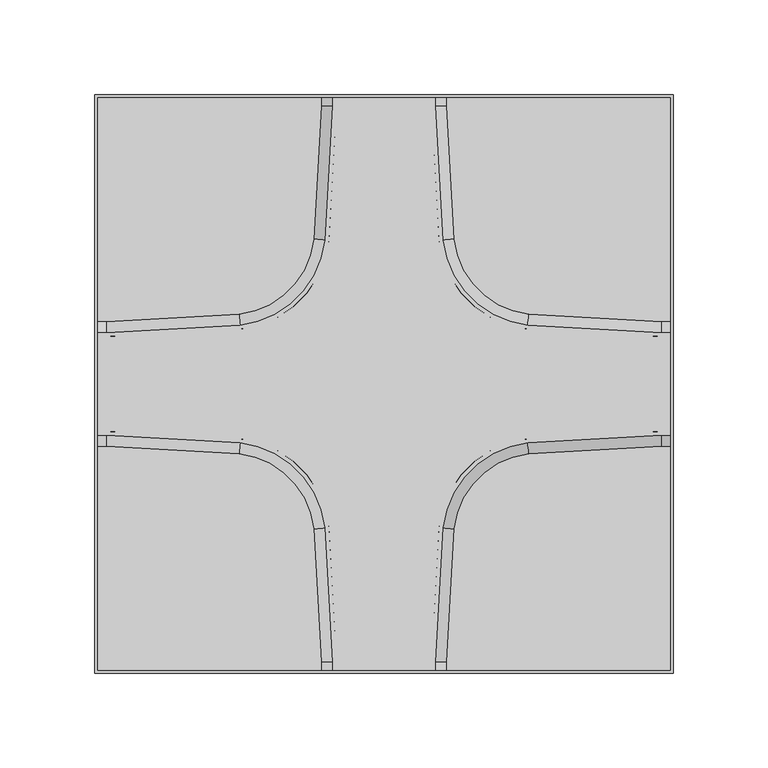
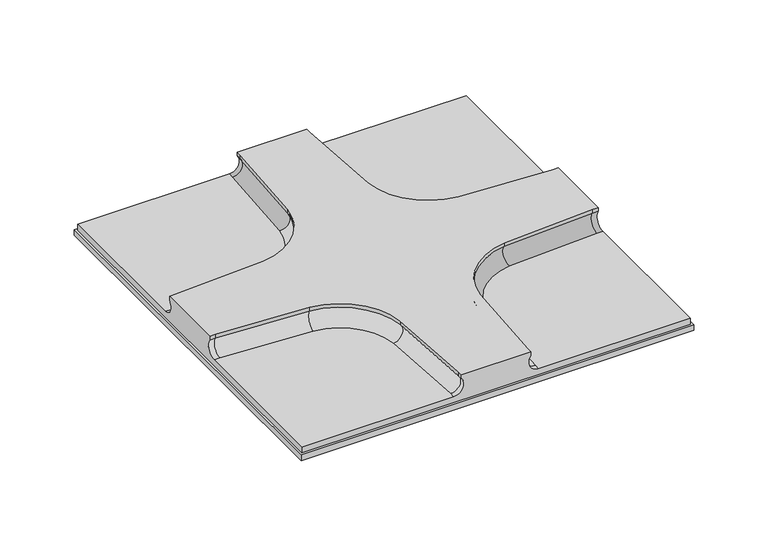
"""IFC4 building model written with IfcOpenShell, lengths in millimetres: proxy geometry, Spinneybeck_Quartile : Quartile 2."""

from ifc_helpers import new_model, si_unit, point, frame, origin, origin_with_axes, place, context, project, spatial, polyline, circle_curve, ellipse_curve, trimmed, outline, extrude, source, transform, mapped, element, save
from ifc_brep_helpers import plane_surface, revolved_surface, advanced_brep


def specialty_equipment_d5421138(model_context):
    return source(origin(), model_context, "Body", "SolidModel", [
        advanced_brep(
        [(-150.8125, -32.7814171, 9.525), (-150.8125, -26.9875, 22.225), (-150.8125, -26.9875, 25.4), (-150.8125, 26.9875, 25.4), (-150.8125, 26.9875, 22.225), (-150.8125, 32.7814171, 9.525), (-150.8125, 150.8125, 9.525), (-150.8125, 150.8125, 4.7625), (-150.8125, -150.8125, 4.7625), (-150.8125, -150.8125, 9.525), (-146.4103312, -26.9875, 25.4), (-75.7556556, -30.9425735, 25.4), (-30.9425735, -75.7556556, 25.4), (-26.9875, -146.4103312, 25.4), (-26.9875, -150.8125, 25.4), (26.9875, -150.8125, 25.4), (26.9875, -146.4103312, 25.4), (30.9425735, -75.7556556, 25.4), (75.7556556, -30.9425735, 25.4), (146.4103312, -26.9875, 25.4), (150.8125, -26.9875, 25.4), (150.8125, 26.9875, 25.4), (146.4103312, 26.9875, 25.4), (75.7556556, 30.9425735, 25.4), (30.9425735, 75.7556556, 25.4), (26.9875, 146.4103312, 25.4), (26.9875, 150.8125, 25.4), (-26.9875, 150.8125, 25.4), (-26.9875, 146.4103312, 25.4), (-30.9425735, 75.7556556, 25.4), (-75.7556556, 30.9425735, 25.4), (-146.4103312, 26.9875, 25.4), (-146.4103312, -32.7814171, 9.525), (-146.4103312, -26.9875, 22.225), (-76.4022876, -36.7002937, 9.525), (-75.7556556, -30.9425735, 22.225), (-36.7002937, -76.4022876, 9.525), (-30.9425735, -75.7556556, 22.225), (-32.7814171, -146.4103312, 9.525), (-26.9875, -146.4103312, 22.225), (-26.9875, -150.8125, 22.225), (-32.7814171, -150.8125, 9.525), (150.8125, -150.8125, 4.7625), (150.8125, -150.8125, 9.525), (32.7814171, -150.8125, 9.525), (26.9875, -150.8125, 22.225), (-146.4103312, 26.9875, 22.225), (-146.4103312, 32.7814171, 9.525), (-75.7556556, 30.9425735, 22.225), (-76.4022876, 36.7002937, 9.525), (-30.9425735, 75.7556556, 22.225), (-36.7002937, 76.4022876, 9.525), (-26.9875, 146.4103312, 22.225), (-32.7814171, 146.4103312, 9.525), (-32.7814171, 150.8125, 9.525), (-26.9875, 150.8125, 22.225), (26.9875, 150.8125, 22.225), (32.7814171, 150.8125, 9.525), (150.8125, 150.8125, 9.525), (150.8125, 150.8125, 4.7625), (150.8125, 32.7814171, 9.525), (150.8125, 26.9875, 22.225), (150.8125, -26.9875, 22.225), (150.8125, -32.7814171, 9.525), (146.4103312, 32.7814171, 9.525), (146.4103312, 26.9875, 22.225), (76.4022876, 36.7002937, 9.525), (75.7556556, 30.9425735, 22.225), (36.7002937, 76.4022876, 9.525), (30.9425735, 75.7556556, 22.225), (32.7814171, 146.4103312, 9.525), (26.9875, 146.4103312, 22.225), (146.4103312, -26.9875, 22.225), (146.4103312, -32.7814171, 9.525), (75.7556556, -30.9425735, 22.225), (76.4022876, -36.7002937, 9.525), (30.9425735, -75.7556556, 22.225), (36.7002937, -76.4022876, 9.525), (26.9875, -146.4103312, 22.225), (32.7814171, -146.4103312, 9.525)],
        [
            (0, 1, circle_curve(frame((-150.8125, -32.7814171, 17.1966329), z_axis=(1.0, 0.0, 0.0), x_axis=(0.0, 1.0, 0.0)), 7.6716329)),
            (1, 2),
            (2, 3),
            (3, 4),
            (4, 5, circle_curve(frame((-150.8125, 32.7814171, 17.1966329), z_axis=(1.0, 0.0, 0.0), x_axis=(0.0, 1.0, 0.0)), 7.6716329)),
            (5, 6),
            (6, 7),
            (7, 8),
            (8, 9),
            (9, 0),
            (2, 10),
            (10, 11, circle_curve(frame((-146.4103312, -660.0637042, 25.4), z_axis=(0.0, 0.0, -1.0), x_axis=(0.0, 1.0, 0.0)), 633.0762042)),
            (11, 12, circle_curve(frame((-81.4252061, -81.4252061, 25.4), z_axis=(0.0, 0.0, -1.0), x_axis=(0.11160532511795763, 0.9937526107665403, 0.0)), 50.8)),
            (12, 13, circle_curve(frame((-660.0637042, -146.4103312, 25.4), z_axis=(0.0, 0.0, -1.0), x_axis=(0.9937526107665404, 0.11160532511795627, 0.0)), 633.0762042)),
            (13, 14),
            (14, 15),
            (15, 16),
            (16, 17, circle_curve(frame((660.0637042, -146.4103312, 25.4), z_axis=(0.0, 0.0, -1.0), x_axis=(-0.9937526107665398, 0.11160532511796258, 0.0)), 633.0762042)),
            (17, 18, circle_curve(frame((81.4252061, -81.4252061, 25.4), z_axis=(0.0, 0.0, -1.0), x_axis=(-0.1116053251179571, 0.9937526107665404, 0.0)), 50.8)),
            (18, 19, circle_curve(frame((146.4103312, -660.0637042, 25.4), z_axis=(0.0, 0.0, -1.0), x_axis=(0.0, 1.0, 0.0)), 633.0762042)),
            (19, 20),
            (20, 21),
            (21, 22),
            (22, 23, circle_curve(frame((146.4103312, 660.0637042, 25.4), z_axis=(0.0, 0.0, -1.0), x_axis=(0.0, -1.0, 0.0)), 633.0762042)),
            (23, 24, circle_curve(frame((81.4252061, 81.4252061, 25.4), z_axis=(0.0, 0.0, -1.0), x_axis=(-0.11160532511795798, -0.9937526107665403, 0.0)), 50.8)),
            (24, 25, circle_curve(frame((660.0637042, 146.4103312, 25.4), z_axis=(0.0, 0.0, -1.0), x_axis=(-0.9937526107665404, -0.1116053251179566, 0.0)), 633.0762042)),
            (25, 26),
            (26, 27),
            (27, 28),
            (28, 29, circle_curve(frame((-660.0637042, 146.4103312, 25.4), z_axis=(0.0, 0.0, -1.0), x_axis=(0.9937526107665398, -0.1116053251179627, 0.0)), 633.0762042)),
            (29, 30, circle_curve(frame((-81.4252061, 81.4252061, 25.4), z_axis=(0.0, 0.0, -1.0), x_axis=(0.11160532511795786, -0.9937526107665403, 0.0)), 50.8)),
            (30, 31, circle_curve(frame((-146.4103312, 660.0637042, 25.4), z_axis=(0.0, 0.0, -1.0), x_axis=(0.0, -1.0, 0.0)), 633.0762042)),
            (31, 3),
            (0, 32),
            (32, 33, circle_curve(frame((-146.4103312, -32.7814171, 17.1966329), z_axis=(1.0, 0.0, 0.0), x_axis=(0.0, 1.0, 0.0)), 7.6716329)),
            (33, 1),
            (33, 10),
            (32, 34, circle_curve(frame((-146.4103312, -660.0637042, 9.525), z_axis=(0.0, 0.0, -1.0), x_axis=(0.0, 1.0, 0.0)), 627.2822871)),
            (34, 35, circle_curve(frame((-76.4022876, -36.7002937, 17.1966329), z_axis=(0.9937526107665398, -0.11160532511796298, 0.0), x_axis=(0.11160532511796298, 0.9937526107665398, 0.0)), 7.6716329)),
            (35, 33, circle_curve(frame((-146.4103312, -660.0637042, 22.225), z_axis=(0.0, 0.0, 1.0), x_axis=(0.0, 1.0, 0.0)), 633.0762042)),
            (35, 11),
            (34, 36, circle_curve(frame((-81.4252061, -81.4252061, 9.525), z_axis=(0.0, 0.0, -1.0), x_axis=(0.11160532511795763, 0.9937526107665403, 0.0)), 45.0060829)),
            (36, 37, circle_curve(frame((-36.7002937, -76.4022876, 17.1966329), z_axis=(0.11160532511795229, -0.9937526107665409, 0.0), x_axis=(0.9937526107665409, 0.11160532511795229, 0.0)), 7.6716329)),
            (37, 35, circle_curve(frame((-81.4252061, -81.4252061, 22.225), z_axis=(0.0, 0.0, 1.0), x_axis=(0.11160532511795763, 0.9937526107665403, 0.0)), 50.8)),
            (37, 12),
            (36, 38, circle_curve(frame((-660.0637042, -146.4103312, 9.525), z_axis=(0.0, 0.0, -1.0), x_axis=(0.9937526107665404, 0.11160532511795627, 0.0)), 627.2822871)),
            (38, 39, circle_curve(frame((-32.7814171, -146.4103312, 17.1966329), z_axis=(0.0, -0.9999999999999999, 0.0), x_axis=(0.9999999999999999, 0.0, 0.0)), 7.6716329)),
            (39, 37, circle_curve(frame((-660.0637042, -146.4103312, 22.225), z_axis=(0.0, 0.0, 1.0), x_axis=(0.9937526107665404, 0.11160532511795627, 0.0)), 633.0762042)),
            (39, 13),
            (14, 40),
            (40, 41, circle_curve(frame((-32.7814171, -150.8125, 17.1966329), z_axis=(0.0, 1.0, 0.0), x_axis=(1.0, 0.0, 0.0)), 7.6716329)),
            (41, 9),
            (8, 42),
            (42, 43),
            (43, 44),
            (44, 45, circle_curve(frame((32.7814171, -150.8125, 17.1966329), z_axis=(0.0, 1.0, 0.0), x_axis=(1.0, 0.0, 0.0)), 7.6716329)),
            (45, 15),
            (38, 41),
            (40, 39),
            (4, 46),
            (46, 47, circle_curve(frame((-146.4103312, 32.7814171, 17.1966329), z_axis=(1.0, 0.0, 0.0), x_axis=(0.0, 1.0, 0.0)), 7.6716329)),
            (47, 5),
            (31, 46),
            (46, 48, circle_curve(frame((-146.4103312, 660.0637042, 22.225), z_axis=(0.0, 0.0, 1.0), x_axis=(0.0, -1.0, 0.0)), 633.0762042)),
            (48, 49, circle_curve(frame((-76.4022876, 36.7002937, 17.1966329), z_axis=(0.9937526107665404, 0.11160532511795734, 0.0), x_axis=(-0.11160532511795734, 0.9937526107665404, 0.0)), 7.6716329)),
            (49, 47, circle_curve(frame((-146.4103312, 660.0637042, 9.525), z_axis=(0.0, 0.0, -1.0), x_axis=(0.0, -1.0, 0.0)), 627.2822871)),
            (30, 48),
            (48, 50, circle_curve(frame((-81.4252061, 81.4252061, 22.225), z_axis=(0.0, 0.0, 1.0), x_axis=(0.11160532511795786, -0.9937526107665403, 0.0)), 50.8)),
            (50, 51, circle_curve(frame((-36.7002937, 76.4022876, 17.1966329), z_axis=(0.11160532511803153, 0.9937526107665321, 0.0), x_axis=(-0.9937526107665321, 0.11160532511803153, 0.0)), 7.6716329)),
            (51, 49, circle_curve(frame((-81.4252061, 81.4252061, 9.525), z_axis=(0.0, 0.0, -1.0), x_axis=(0.11160532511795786, -0.9937526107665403, 0.0)), 45.0060829)),
            (29, 50),
            (50, 52, circle_curve(frame((-660.0637042, 146.4103312, 22.225), z_axis=(0.0, 0.0, 1.0), x_axis=(0.9937526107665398, -0.1116053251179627, 0.0)), 633.0762042)),
            (52, 53, circle_curve(frame((-32.7814171, 146.4103312, 17.1966329), z_axis=(0.0, 1.0, 0.0), x_axis=(-1.0, 0.0, 0.0)), 7.6716329)),
            (53, 51, circle_curve(frame((-660.0637042, 146.4103312, 9.525), z_axis=(0.0, 0.0, -1.0), x_axis=(0.9937526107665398, -0.1116053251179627, 0.0)), 627.2822871)),
            (28, 52),
            (54, 55, circle_curve(frame((-32.7814171, 150.8125, 17.1966329), z_axis=(0.0, -1.0, 0.0), x_axis=(-1.0, 0.0, 0.0)), 7.6716329)),
            (55, 27),
            (26, 56),
            (56, 57, circle_curve(frame((32.7814171, 150.8125, 17.1966329), z_axis=(0.0, -1.0, 0.0), x_axis=(-1.0, 0.0, 0.0)), 7.6716329)),
            (57, 58),
            (58, 59),
            (59, 7),
            (6, 54),
            (52, 55),
            (54, 53),
            (60, 61, circle_curve(frame((150.8125, 32.7814171, 17.1966329), z_axis=(-1.0, 0.0, 0.0), x_axis=(0.0, -1.0, 0.0)), 7.6716329)),
            (61, 21),
            (20, 62),
            (62, 63, circle_curve(frame((150.8125, -32.7814171, 17.1966329), z_axis=(-1.0, 0.0, 0.0), x_axis=(0.0, -1.0, 0.0)), 7.6716329)),
            (63, 43),
            (42, 59),
            (58, 60),
            (60, 64),
            (64, 65, circle_curve(frame((146.4103312, 32.7814171, 17.1966329), z_axis=(-1.0, 0.0, 0.0), x_axis=(0.0, -1.0, 0.0)), 7.6716329)),
            (65, 61),
            (65, 22),
            (64, 66, circle_curve(frame((146.4103312, 660.0637042, 9.525), z_axis=(0.0, 0.0, -1.0), x_axis=(0.0, -1.0, 0.0)), 627.2822871)),
            (66, 67, circle_curve(frame((76.4022876, 36.7002937, 17.1966329), z_axis=(-0.9937526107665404, 0.1116053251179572, 0.0), x_axis=(-0.1116053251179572, -0.9937526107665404, 0.0)), 7.6716329)),
            (67, 65, circle_curve(frame((146.4103312, 660.0637042, 22.225), z_axis=(0.0, 0.0, 1.0), x_axis=(0.0, -1.0, 0.0)), 633.0762042)),
            (67, 23),
            (66, 68, circle_curve(frame((81.4252061, 81.4252061, 9.525), z_axis=(0.0, 0.0, -1.0), x_axis=(-0.11160532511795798, -0.9937526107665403, 0.0)), 45.0060829)),
            (68, 69, circle_curve(frame((36.7002937, 76.4022876, 17.1966329), z_axis=(-0.1116053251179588, 0.9937526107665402, 0.0), x_axis=(-0.9937526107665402, -0.1116053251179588, 0.0)), 7.6716329)),
            (69, 67, circle_curve(frame((81.4252061, 81.4252061, 22.225), z_axis=(0.0, 0.0, 1.0), x_axis=(-0.11160532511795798, -0.9937526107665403, 0.0)), 50.8)),
            (69, 24),
            (68, 70, circle_curve(frame((660.0637042, 146.4103312, 9.525), z_axis=(0.0, 0.0, -1.0), x_axis=(-0.9937526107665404, -0.1116053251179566, 0.0)), 627.2822871)),
            (70, 71, circle_curve(frame((32.7814171, 146.4103312, 17.1966329), z_axis=(0.0, 1.0, 0.0), x_axis=(-1.0, 0.0, 0.0)), 7.6716329)),
            (71, 69, circle_curve(frame((660.0637042, 146.4103312, 22.225), z_axis=(0.0, 0.0, 1.0), x_axis=(-0.9937526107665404, -0.1116053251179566, 0.0)), 633.0762042)),
            (71, 25),
            (70, 57),
            (56, 71),
            (62, 72),
            (72, 73, circle_curve(frame((146.4103312, -32.7814171, 17.1966329), z_axis=(-1.0, 0.0, 0.0), x_axis=(0.0, -1.0, 0.0)), 7.6716329)),
            (73, 63),
            (19, 72),
            (72, 74, circle_curve(frame((146.4103312, -660.0637042, 22.225), z_axis=(0.0, 0.0, 1.0), x_axis=(0.0, 1.0, 0.0)), 633.0762042)),
            (74, 75, circle_curve(frame((76.4022876, -36.7002937, 17.1966329), z_axis=(-0.9937526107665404, -0.11160532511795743, 0.0), x_axis=(0.11160532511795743, -0.9937526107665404, 0.0)), 7.6716329)),
            (75, 73, circle_curve(frame((146.4103312, -660.0637042, 9.525), z_axis=(0.0, 0.0, -1.0), x_axis=(0.0, 1.0, 0.0)), 627.2822871)),
            (18, 74),
            (74, 76, circle_curve(frame((81.4252061, -81.4252061, 22.225), z_axis=(0.0, 0.0, 1.0), x_axis=(-0.1116053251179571, 0.9937526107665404, 0.0)), 50.8)),
            (76, 77, circle_curve(frame((36.7002937, -76.4022876, 17.1966329), z_axis=(-0.11160532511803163, -0.993752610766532, 0.0), x_axis=(0.993752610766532, -0.11160532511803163, 0.0)), 7.6716329)),
            (77, 75, circle_curve(frame((81.4252061, -81.4252061, 9.525), z_axis=(0.0, 0.0, -1.0), x_axis=(-0.1116053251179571, 0.9937526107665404, 0.0)), 45.0060829)),
            (17, 76),
            (76, 78, circle_curve(frame((660.0637042, -146.4103312, 22.225), z_axis=(0.0, 0.0, 1.0), x_axis=(-0.9937526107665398, 0.11160532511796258, 0.0)), 633.0762042)),
            (78, 79, circle_curve(frame((32.7814171, -146.4103312, 17.1966329), z_axis=(0.0, -1.0, 0.0), x_axis=(1.0, 0.0, 0.0)), 7.6716329)),
            (79, 77, circle_curve(frame((660.0637042, -146.4103312, 9.525), z_axis=(0.0, 0.0, -1.0), x_axis=(-0.9937526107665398, 0.11160532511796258, 0.0)), 627.2822871)),
            (16, 78),
            (78, 45),
            (44, 79),
        ],
        [
            plane_surface(frame((-150.8125, -26.9875, 9.525), z_axis=(-1.0, 0.0, 0.0), x_axis=(0.0, 0.0, 1.0))),
            plane_surface(frame((-150.8125, -26.9875, 25.4), z_axis=(0.0, 0.0, 1.0), x_axis=(1.0, 0.0, 0.0))),
            revolved_surface(polyline([(-146.4103312, -25.1097842, 17.1966329), (-150.8125, -25.1097842, 17.1966329)]), (-150.8125, -32.7814171, 17.1966329), (1.0, 0.0, 0.0)),
            plane_surface(frame((-150.8125, -26.9875, 22.225), z_axis=(0.0, -1.0, 0.0), x_axis=(1.0, 0.0, 0.0))),
            revolved_surface(trimmed(ellipse_curve(frame((-146.4103312, -32.7814171, 17.1966329), z_axis=(1.0, 0.0, 0.0), x_axis=(0.0, 1.0, 0.0)), 7.6716329, 7.6716329), [point((-146.4103312, -32.7814171, 9.525))], [point((-146.4103312, -26.9875, 22.225))], True, "CARTESIAN"), (-146.4103312, -660.0637042, 9.525), (0.0, 0.0, -1.0)),
            revolved_surface(polyline([(-146.4103312, -26.987499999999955, 22.225), (-146.4103312, -26.987499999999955, 25.4)]), (-146.4103312, -660.0637042, 9.525), (0.0, 0.0, -1.0)),
            revolved_surface(trimmed(ellipse_curve(frame((-76.4022876, -36.7002937, 17.1966329), z_axis=(0.9937526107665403, -0.11160532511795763, 0.0), x_axis=(0.11160532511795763, 0.9937526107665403, 0.0)), 7.6716329, 7.6716329), [point((-76.4022876, -36.7002937, 9.525))], [point((-75.7556556, -30.9425735, 22.225))], True, "CARTESIAN"), (-81.4252061, -81.4252061, 9.525), (0.0, 0.0, -1.0)),
            revolved_surface(polyline([(-75.75565558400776, -30.942573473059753, 22.225), (-75.75565558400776, -30.942573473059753, 25.4)]), (-81.4252061, -81.4252061, 9.525), (0.0, 0.0, -1.0)),
            revolved_surface(trimmed(ellipse_curve(frame((-36.7002937, -76.4022876, 17.1966329), z_axis=(0.1116053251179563, -0.9937526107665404, 0.0), x_axis=(0.9937526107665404, 0.1116053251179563, 0.0)), 7.6716329, 7.6716329), [point((-36.7002937, -76.4022876, 9.525))], [point((-30.9425735, -75.7556556, 22.225))], True, "CARTESIAN"), (-660.0637042, -146.4103312, 9.525), (0.0, 0.0, -1.0)),
            revolved_surface(polyline([(-30.942573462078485, -75.75565560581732, 22.225), (-30.942573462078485, -75.75565560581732, 25.4)]), (-660.0637042, -146.4103312, 9.525), (0.0, 0.0, -1.0)),
            plane_surface(frame((-26.9875, -150.8125, 9.525), z_axis=(0.0, -1.0, 0.0), x_axis=(0.0, 0.0, 1.0))),
            revolved_surface(polyline([(-25.1097842, -150.8125, 17.1966329), (-25.1097842, -146.4103312, 17.1966329)]), (-32.7814171, -146.4103312, 17.1966329), (0.0, -1.0, 0.0)),
            plane_surface(frame((-26.9875, -146.4103312, 22.225), z_axis=(-1.0, 0.0, 0.0), x_axis=(0.0, -1.0, 0.0))),
            revolved_surface(polyline([(-146.4103312, 40.45305, 17.1966329), (-150.8125, 40.45305, 17.1966329)]), (-150.8125, 32.7814171, 17.1966329), (1.0, 0.0, 0.0)),
            plane_surface(frame((-150.8125, 26.9875, 25.4), z_axis=(0.0, 1.0, 0.0), x_axis=(1.0, 0.0, 0.0))),
            revolved_surface(trimmed(ellipse_curve(frame((-146.4103312, 32.7814171, 17.1966329), z_axis=(1.0, 0.0, 0.0), x_axis=(0.0, 1.0, 0.0)), 7.6716329, 7.6716329), [point((-146.4103312, 26.9875, 22.225))], [point((-146.4103312, 32.7814171, 9.525))], True, "CARTESIAN"), (-146.4103312, 660.0637042, 9.525), (0.0, 0.0, 1.0)),
            revolved_surface(polyline([(-146.4103312, 26.987499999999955, 25.4), (-146.4103312, 26.987499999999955, 22.225)]), (-146.4103312, 660.0637042, 9.525), (0.0, 0.0, 1.0)),
            revolved_surface(trimmed(ellipse_curve(frame((-76.4022876, 36.7002937, 17.1966329), z_axis=(0.9937526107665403, 0.11160532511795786, 0.0), x_axis=(-0.11160532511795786, 0.9937526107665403, 0.0)), 7.6716329, 7.6716329), [point((-75.7556556, 30.9425735, 22.225))], [point((-76.4022876, 36.7002937, 9.525))], True, "CARTESIAN"), (-81.4252061, 81.4252061, 9.525), (0.0, 0.0, 1.0)),
            revolved_surface(polyline([(-75.75565558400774, 30.942573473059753, 25.4), (-75.75565558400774, 30.942573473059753, 22.225)]), (-81.4252061, 81.4252061, 9.525), (0.0, 0.0, 1.0)),
            revolved_surface(trimmed(ellipse_curve(frame((-36.7002937, 76.4022876, 17.1966329), z_axis=(0.11160532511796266, 0.9937526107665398, 0.0), x_axis=(-0.9937526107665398, 0.11160532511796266, 0.0)), 7.6716329, 7.6716329), [point((-30.9425735, 75.7556556, 22.225))], [point((-36.7002937, 76.4022876, 9.525))], True, "CARTESIAN"), (-660.0637042, 146.4103312, 9.525), (0.0, 0.0, 1.0)),
            revolved_surface(polyline([(-30.94257346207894, 75.75565560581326, 25.4), (-30.94257346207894, 75.75565560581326, 22.225)]), (-660.0637042, 146.4103312, 9.525), (0.0, 0.0, 1.0)),
            plane_surface(frame((-26.9875, 150.8125, 9.525), z_axis=(0.0, 1.0, 0.0), x_axis=(0.0, 0.0, 1.0))),
            revolved_surface(polyline([(-40.45305, 150.8125, 17.1966329), (-40.45305, 146.4103312, 17.1966329)]), (-32.7814171, 146.4103312, 17.1966329), (0.0, 1.0, 0.0)),
            plane_surface(frame((-26.9875, 146.4103312, 25.4), z_axis=(-1.0, 0.0, 0.0), x_axis=(0.0, 1.0, 0.0))),
            plane_surface(frame((150.8125, 26.9875, 9.525), z_axis=(1.0, 0.0, 0.0), x_axis=(0.0, 0.0, 1.0))),
            revolved_surface(polyline([(146.4103312, 25.1097842, 17.1966329), (150.8125, 25.1097842, 17.1966329)]), (150.8125, 32.7814171, 17.1966329), (-1.0, 0.0, 0.0)),
            plane_surface(frame((150.8125, 26.9875, 22.225), z_axis=(0.0, 1.0, 0.0), x_axis=(-1.0, 0.0, 0.0))),
            revolved_surface(trimmed(ellipse_curve(frame((146.4103312, 32.7814171, 17.1966329), z_axis=(-1.0, 0.0, 0.0), x_axis=(0.0, -1.0, 0.0)), 7.6716329, 7.6716329), [point((146.4103312, 32.7814171, 9.525))], [point((146.4103312, 26.9875, 22.225))], True, "CARTESIAN"), (146.4103312, 660.0637042, 9.525), (0.0, 0.0, -1.0)),
            revolved_surface(polyline([(146.4103312, 26.987499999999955, 22.225), (146.4103312, 26.987499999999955, 25.4)]), (146.4103312, 660.0637042, 9.525), (0.0, 0.0, -1.0)),
            revolved_surface(trimmed(ellipse_curve(frame((76.4022876, 36.7002937, 17.1966329), z_axis=(-0.9937526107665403, 0.11160532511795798, 0.0), x_axis=(-0.11160532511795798, -0.9937526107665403, 0.0)), 7.6716329, 7.6716329), [point((76.4022876, 36.7002937, 9.525))], [point((75.7556556, 30.9425735, 22.225))], True, "CARTESIAN"), (81.4252061, 81.4252061, 9.525), (0.0, 0.0, -1.0)),
            revolved_surface(polyline([(75.75565558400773, 30.942573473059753, 22.225), (75.75565558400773, 30.942573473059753, 25.4)]), (81.4252061, 81.4252061, 9.525), (0.0, 0.0, -1.0)),
            revolved_surface(trimmed(ellipse_curve(frame((36.7002937, 76.4022876, 17.1966329), z_axis=(-0.11160532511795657, 0.9937526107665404, 0.0), x_axis=(-0.9937526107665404, -0.11160532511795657, 0.0)), 7.6716329, 7.6716329), [point((36.7002937, 76.4022876, 9.525))], [point((30.9425735, 75.7556556, 22.225))], True, "CARTESIAN"), (660.0637042, 146.4103312, 9.525), (0.0, 0.0, -1.0)),
            revolved_surface(polyline([(30.942573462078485, 75.75565560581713, 22.225), (30.942573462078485, 75.75565560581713, 25.4)]), (660.0637042, 146.4103312, 9.525), (0.0, 0.0, -1.0)),
            revolved_surface(polyline([(25.1097842, 150.8125, 17.1966329), (25.1097842, 146.4103312, 17.1966329)]), (32.7814171, 146.4103312, 17.1966329), (0.0, 1.0, 0.0)),
            plane_surface(frame((26.9875, 146.4103312, 22.225), z_axis=(1.0, 0.0, 0.0), x_axis=(0.0, 1.0, 0.0))),
            revolved_surface(polyline([(146.4103312, -40.45305, 17.1966329), (150.8125, -40.45305, 17.1966329)]), (150.8125, -32.7814171, 17.1966329), (-1.0, 0.0, 0.0)),
            plane_surface(frame((150.8125, -26.9875, 25.4), z_axis=(0.0, -1.0, 0.0), x_axis=(-1.0, 0.0, 0.0))),
            revolved_surface(trimmed(ellipse_curve(frame((146.4103312, -32.7814171, 17.1966329), z_axis=(-1.0, 0.0, 0.0), x_axis=(0.0, -1.0, 0.0)), 7.6716329, 7.6716329), [point((146.4103312, -26.9875, 22.225))], [point((146.4103312, -32.7814171, 9.525))], True, "CARTESIAN"), (146.4103312, -660.0637042, 9.525), (0.0, 0.0, 1.0)),
            revolved_surface(polyline([(146.4103312, -26.987499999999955, 25.4), (146.4103312, -26.987499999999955, 22.225)]), (146.4103312, -660.0637042, 9.525), (0.0, 0.0, 1.0)),
            revolved_surface(trimmed(ellipse_curve(frame((76.4022876, -36.7002937, 17.1966329), z_axis=(-0.9937526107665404, -0.1116053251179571, 0.0), x_axis=(0.1116053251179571, -0.9937526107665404, 0.0)), 7.6716329, 7.6716329), [point((75.7556556, -30.9425735, 22.225))], [point((76.4022876, -36.7002937, 9.525))], True, "CARTESIAN"), (81.4252061, -81.4252061, 9.525), (0.0, 0.0, 1.0)),
            revolved_surface(polyline([(75.75565558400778, -30.942573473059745, 25.4), (75.75565558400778, -30.942573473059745, 22.225)]), (81.4252061, -81.4252061, 9.525), (0.0, 0.0, 1.0)),
            revolved_surface(trimmed(ellipse_curve(frame((36.7002937, -76.4022876, 17.1966329), z_axis=(-0.1116053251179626, -0.9937526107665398, 0.0), x_axis=(0.9937526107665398, -0.1116053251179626, 0.0)), 7.6716329, 7.6716329), [point((30.9425735, -75.7556556, 22.225))], [point((36.7002937, -76.4022876, 9.525))], True, "CARTESIAN"), (660.0637042, -146.4103312, 9.525), (0.0, 0.0, 1.0)),
            revolved_surface(polyline([(30.94257346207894, -75.75565560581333, 25.4), (30.94257346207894, -75.75565560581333, 22.225)]), (660.0637042, -146.4103312, 9.525), (0.0, 0.0, 1.0)),
            revolved_surface(polyline([(40.45305, -150.8125, 17.1966329), (40.45305, -146.4103312, 17.1966329)]), (32.7814171, -146.4103312, 17.1966329), (0.0, -1.0, 0.0)),
            plane_surface(frame((26.9875, -146.4103312, 25.4), z_axis=(1.0, 0.0, 0.0), x_axis=(0.0, -1.0, 0.0))),
            plane_surface(frame((150.8125, 150.8125, 4.7625), z_axis=(0.0, 0.0, -1.0), x_axis=(0.0, -1.0, 0.0))),
            plane_surface(frame((150.8125, 150.8125, 9.525), z_axis=(0.0, 0.0, 1.0), x_axis=(0.0, 1.0, 0.0))),
        ],
        [
            (0, [[1, 2, 3, 4, 5, 6, 7, 8, 9, 10]]),
            (1, [[11, 12, 13, 14, 15, 16, 17, 18, 19, 20, 21, 22, 23, 24, 25, 26, 27, 28, 29, 30, 31, 32, 33, -3]]),
            (2, [[-1, 34, 35, 36]]),
            (3, [[-2, -36, 37, -11]]),
            (4, [[-35, 38, 39, 40]]),
            (5, [[-12, -37, -40, 41]]),
            (6, [[-39, 42, 43, 44]]),
            (7, [[-13, -41, -44, 45]]),
            (8, [[-43, 46, 47, 48]]),
            (9, [[-14, -45, -48, 49]]),
            (10, [[50, 51, 52, -9, 53, 54, 55, 56, 57, -16]]),
            (11, [[-47, 58, -51, 59]]),
            (12, [[-15, -49, -59, -50]]),
            (13, [[-5, 60, 61, 62]]),
            (14, [[-4, -33, 63, -60]]),
            (15, [[-61, 64, 65, 66]]),
            (16, [[-32, 67, -64, -63]]),
            (17, [[-65, 68, 69, 70]]),
            (18, [[-31, 71, -68, -67]]),
            (19, [[-69, 72, 73, 74]]),
            (20, [[-30, 75, -72, -71]]),
            (21, [[76, 77, -28, 78, 79, 80, 81, 82, -7, 83]]),
            (22, [[-73, 84, -76, 85]]),
            (23, [[-29, -77, -84, -75]]),
            (24, [[86, 87, -22, 88, 89, 90, -54, 91, -81, 92]]),
            (25, [[-86, 93, 94, 95]]),
            (26, [[-87, -95, 96, -23]]),
            (27, [[-94, 97, 98, 99]]),
            (28, [[-24, -96, -99, 100]]),
            (29, [[-98, 101, 102, 103]]),
            (30, [[-25, -100, -103, 104]]),
            (31, [[-102, 105, 106, 107]]),
            (32, [[-26, -104, -107, 108]]),
            (33, [[-106, 109, -79, 110]]),
            (34, [[-27, -108, -110, -78]]),
            (35, [[-89, 111, 112, 113]]),
            (36, [[-88, -21, 114, -111]]),
            (37, [[-112, 115, 116, 117]]),
            (38, [[-20, 118, -115, -114]]),
            (39, [[-116, 119, 120, 121]]),
            (40, [[-19, 122, -119, -118]]),
            (41, [[-120, 123, 124, 125]]),
            (42, [[-18, 126, -123, -122]]),
            (43, [[-124, 127, -56, 128]]),
            (44, [[-17, -57, -127, -126]]),
            (45, [[-91, -53, -8, -82]]),
            (46, [[-6, -62, -66, -70, -74, -85, -83]]),
            (46, [[-10, -52, -58, -46, -42, -38, -34]]),
            (46, [[-80, -109, -105, -101, -97, -93, -92]]),
            (46, [[-90, -113, -117, -121, -125, -128, -55]]),
        ],
    ),
        extrude(outline(polyline([(152.4, 152.4), (152.4, -152.4), (-152.4, -152.4), (-152.4, 152.4), (152.4, 152.4)])), origin_with_axes(), (0.0, 0.0, 1.0), 4.7625),
    ])


if __name__ == "__main__":
    model = new_model("IFC4")
    model_context = context("Model", 3, world=origin())
    ifc_project = project(units=[si_unit("LENGTHUNIT", "METRE", prefix="MILLI")], contexts=[model_context])
    site = spatial("IfcSite", under=ifc_project)
    building = spatial("IfcBuilding", under=site)
    placement = place(None, origin())
    specialty_equipment_shape = specialty_equipment_d5421138(model_context)
    element("IfcBuildingElementProxy", 1, Name="Spinneybeck_Quartile : Quartile 2", ObjectType="Spinneybeck_Quartile : Quartile 2", at=placement, inside=building, context=model_context, shape_type="MappedRepresentation", body=[
        mapped(specialty_equipment_shape, transform((0.0, 0.0, 0.0), x_axis=(1.0, 0.0, 0.0), y_axis=(0.0, 1.0, 0.0), z_axis=(0.0, 0.0, 1.0))),
    ])
    save(model, "model.ifc")
